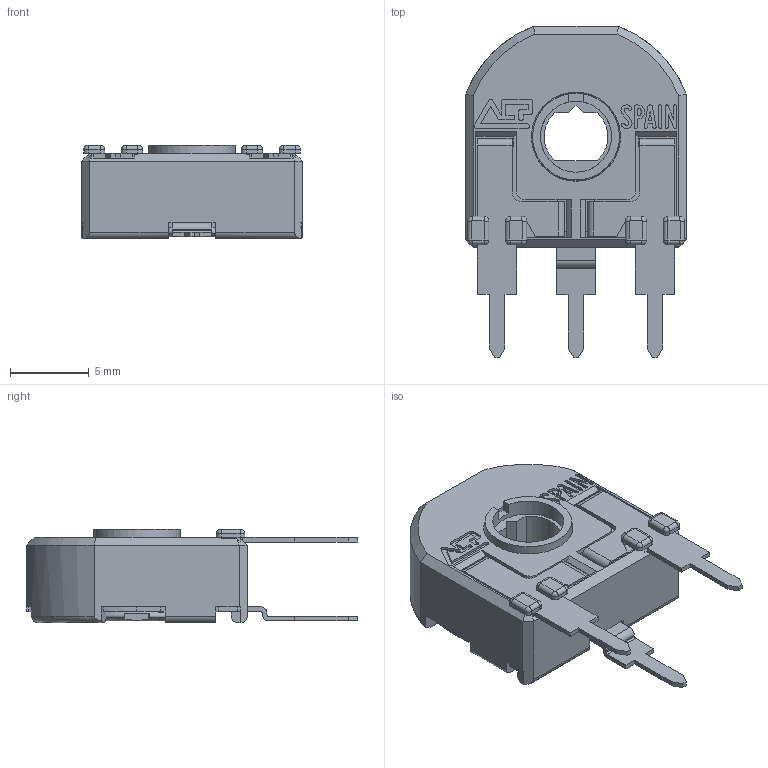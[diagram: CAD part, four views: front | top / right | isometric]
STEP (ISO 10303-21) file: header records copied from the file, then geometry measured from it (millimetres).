
FILE_DESCRIPTION(/* description */ (''),/* implementation_level */ '2;1');
FILE_NAME(/* name */ 'C:\Users\CEM\Desktop\ENVIAR\TRANSICION 3D CATALOGOS\CAR14KH5.stp',/* time_stamp */ '2025-09-22T09:51:06+02:00',/* author */ ('CEM'),/* organization */ (''),/* preprocessor_version */ 'ST-DEVELOPER v17',/* originating_system */ 'Autodesk Inventor 2018',/* authorisation */ '');
FILE_SCHEMA (('AUTOMOTIVE_DESIGN { 1 0 10303 214 3 1 1 }'));
Length unit declared in the file: millimetre
Products named in the file (1): CAR14KH5
Bounding box: 14 x 21 x 5.9 mm (x, y, z)
Volume: 543.9 mm3; surface area: 1520.3 mm2
Topology: 1 solids, 1 shells, 580 faces, 1691 edges, 1083 vertices
Faces by surface type: plane 397, cylinder 140, bspline 20, cone 14, torus 9
Full cylindrical faces by diameter (mm): 1.2 x2, 4.5 x1, 5.5 x1, 5.65 x1, 6.88 x1
Entity records: 19888 total; most frequent: CARTESIAN_POINT 3679, ORIENTED_EDGE 3382, DIRECTION 3176, EDGE_CURVE 1691, LINE 1252, VECTOR 1252, VERTEX_POINT 1083, AXIS2_PLACEMENT_3D 962
